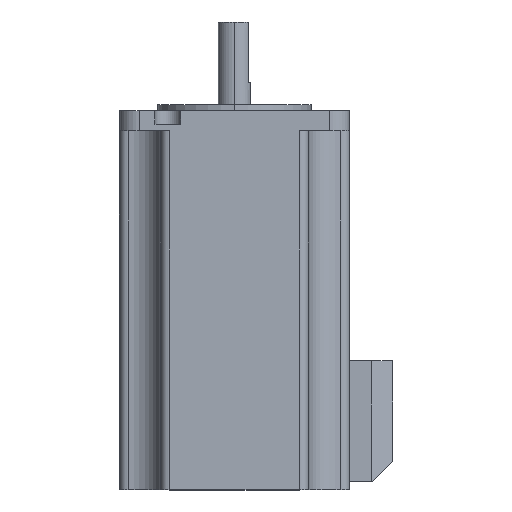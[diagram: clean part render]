
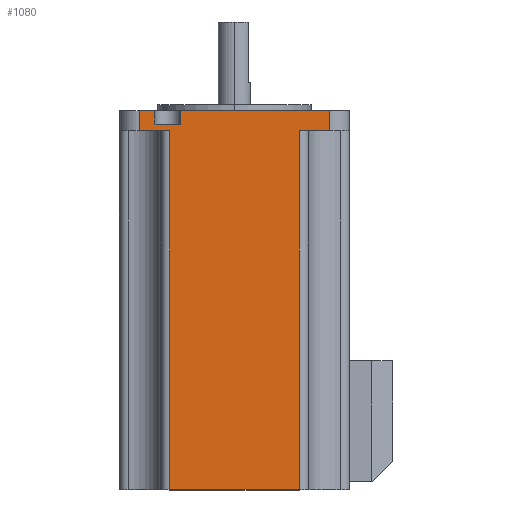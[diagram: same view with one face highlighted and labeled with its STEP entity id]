
A CAD part, top view. The second image highlights one B-rep face of the part: STEP entity #1080.
In plain terms, the highlighted planar face has unit normal (0, 0, 1).
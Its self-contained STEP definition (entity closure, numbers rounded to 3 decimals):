
#9 = DIRECTION ( 'NONE',  ( 0., 1., 0. ) ) ;
#20 = DIRECTION ( 'NONE',  ( 1., 0., 0. ) ) ;
#50 = EDGE_CURVE ( 'NONE', #1748, #1916, #1142, .T. ) ;
#63 = CARTESIAN_POINT ( 'NONE',  ( 0., 0., 0. ) ) ;
#117 = DIRECTION ( 'NONE',  ( 0., 0., 1. ) ) ;
#147 = CARTESIAN_POINT ( 'NONE',  ( 12.4, -5., 0. ) ) ;
#171 = FACE_OUTER_BOUND ( 'NONE', #1855, .T. ) ;
#177 = VERTEX_POINT ( 'NONE', #2655 ) ;
#201 = EDGE_CURVE ( 'NONE', #1410, #2619, #806, .T. ) ;
#209 = EDGE_CURVE ( 'NONE', #1818, #2076, #2396, .T. ) ;
#253 = EDGE_CURVE ( 'NONE', #1818, #1170, #1775, .T. ) ;
#257 = VECTOR ( 'NONE', #1012, 1000. ) ;
#265 = LINE ( 'NONE', #1286, #1783 ) ;
#270 = ORIENTED_EDGE ( 'NONE', *, *, #1966, .T. ) ;
#273 = EDGE_CURVE ( 'NONE', #386, #1416, #2683, .T. ) ;
#364 = EDGE_CURVE ( 'NONE', #2038, #386, #1942, .T. ) ;
#386 = VERTEX_POINT ( 'NONE', #1666 ) ;
#498 = ORIENTED_EDGE ( 'NONE', *, *, #1078, .F. ) ;
#502 = CARTESIAN_POINT ( 'NONE',  ( 52.07, -5., 0. ) ) ;
#522 = DIRECTION ( 'NONE',  ( 1., 0., 0. ) ) ;
#675 = DIRECTION ( 'NONE',  ( 0., 1., 0. ) ) ;
#705 = CARTESIAN_POINT ( 'NONE',  ( 12.4, -5., 0. ) ) ;
#754 = DIRECTION ( 'NONE',  ( 1., 0., 0. ) ) ;
#755 = VECTOR ( 'NONE', #1852, 1000. ) ;
#763 = CARTESIAN_POINT ( 'NONE',  ( 52.07, 0., 0. ) ) ;
#765 = VECTOR ( 'NONE', #1968, 1000. ) ;
#795 = DIRECTION ( 'NONE',  ( 0., 1., 0. ) ) ;
#806 = LINE ( 'NONE', #1000, #257 ) ;
#809 = ORIENTED_EDGE ( 'NONE', *, *, #1526, .F. ) ;
#824 = CARTESIAN_POINT ( 'NONE',  ( 4.93, -5., 0. ) ) ;
#838 = VECTOR ( 'NONE', #2072, 1000. ) ;
#895 = ORIENTED_EDGE ( 'NONE', *, *, #201, .F. ) ;
#907 = ORIENTED_EDGE ( 'NONE', *, *, #253, .T. ) ;
#915 = VECTOR ( 'NONE', #1599, 1000. ) ;
#935 = VECTOR ( 'NONE', #1028, 1000. ) ;
#1000 = CARTESIAN_POINT ( 'NONE',  ( 8.8, -3.4, 0. ) ) ;
#1012 = DIRECTION ( 'NONE',  ( 1., 0., 0. ) ) ;
#1028 = DIRECTION ( 'NONE',  ( 0., -1., 0. ) ) ;
#1043 = VECTOR ( 'NONE', #522, 1000. ) ;
#1053 = LINE ( 'NONE', #1646, #1656 ) ;
#1078 = EDGE_CURVE ( 'NONE', #1916, #177, #1758, .T. ) ;
#1080 = ADVANCED_FACE ( 'NONE', ( #171 ), #1091, .T. ) ;
#1091 = PLANE ( 'NONE',  #1146 ) ;
#1116 = ORIENTED_EDGE ( 'NONE', *, *, #209, .F. ) ;
#1142 = LINE ( 'NONE', #2036, #2227 ) ;
#1146 = AXIS2_PLACEMENT_3D ( 'NONE', #1502, #117, #2308 ) ;
#1170 = VERTEX_POINT ( 'NONE', #763 ) ;
#1208 = VECTOR ( 'NONE', #754, 1000. ) ;
#1225 = VECTOR ( 'NONE', #9, 1000. ) ;
#1286 = CARTESIAN_POINT ( 'NONE',  ( 15.2, -3.4, 0. ) ) ;
#1294 = CARTESIAN_POINT ( 'NONE',  ( 15.2, 0., 0. ) ) ;
#1361 = ORIENTED_EDGE ( 'NONE', *, *, #1515, .F. ) ;
#1388 = EDGE_CURVE ( 'NONE', #2038, #1748, #1442, .T. ) ;
#1403 = ORIENTED_EDGE ( 'NONE', *, *, #1388, .F. ) ;
#1410 = VERTEX_POINT ( 'NONE', #2354 ) ;
#1416 = VERTEX_POINT ( 'NONE', #1768 ) ;
#1442 = LINE ( 'NONE', #705, #765 ) ;
#1502 = CARTESIAN_POINT ( 'NONE',  ( 0., -94., 0. ) ) ;
#1515 = EDGE_CURVE ( 'NONE', #2270, #1170, #1053, .T. ) ;
#1526 = EDGE_CURVE ( 'NONE', #2076, #1416, #2069, .T. ) ;
#1566 = CARTESIAN_POINT ( 'NONE',  ( 8.8, -3.4, 0. ) ) ;
#1599 = DIRECTION ( 'NONE',  ( 0., 1., 0. ) ) ;
#1646 = CARTESIAN_POINT ( 'NONE',  ( 0., 0., 0. ) ) ;
#1648 = ORIENTED_EDGE ( 'NONE', *, *, #50, .F. ) ;
#1656 = VECTOR ( 'NONE', #20, 1000. ) ;
#1666 = CARTESIAN_POINT ( 'NONE',  ( 12.4, -94., 0. ) ) ;
#1679 = CARTESIAN_POINT ( 'NONE',  ( 15.2, -3.4, 0. ) ) ;
#1748 = VERTEX_POINT ( 'NONE', #824 ) ;
#1758 = LINE ( 'NONE', #63, #1208 ) ;
#1768 = CARTESIAN_POINT ( 'NONE',  ( 44.6, -94., 0. ) ) ;
#1775 = LINE ( 'NONE', #2673, #1225 ) ;
#1783 = VECTOR ( 'NONE', #675, 1000. ) ;
#1818 = VERTEX_POINT ( 'NONE', #502 ) ;
#1852 = DIRECTION ( 'NONE',  ( -1., 0., 0. ) ) ;
#1855 = EDGE_LOOP ( 'NONE', ( #2565, #809, #1116, #907, #1361, #2219, #895, #270, #498, #1648, #1403, #2271 ) ) ;
#1916 = VERTEX_POINT ( 'NONE', #2505 ) ;
#1942 = LINE ( 'NONE', #2161, #838 ) ;
#1966 = EDGE_CURVE ( 'NONE', #1410, #177, #2556, .T. ) ;
#1968 = DIRECTION ( 'NONE',  ( -1., 0., 0. ) ) ;
#2036 = CARTESIAN_POINT ( 'NONE',  ( 4.93, -6., 0. ) ) ;
#2038 = VERTEX_POINT ( 'NONE', #147 ) ;
#2069 = LINE ( 'NONE', #2672, #935 ) ;
#2072 = DIRECTION ( 'NONE',  ( 0., -1., 0. ) ) ;
#2076 = VERTEX_POINT ( 'NONE', #2164 ) ;
#2161 = CARTESIAN_POINT ( 'NONE',  ( 12.4, -5., 0. ) ) ;
#2164 = CARTESIAN_POINT ( 'NONE',  ( 44.6, -5., 0. ) ) ;
#2219 = ORIENTED_EDGE ( 'NONE', *, *, #2625, .F. ) ;
#2221 = CARTESIAN_POINT ( 'NONE',  ( 0., -94., 0. ) ) ;
#2227 = VECTOR ( 'NONE', #795, 1000. ) ;
#2270 = VERTEX_POINT ( 'NONE', #1294 ) ;
#2271 = ORIENTED_EDGE ( 'NONE', *, *, #364, .T. ) ;
#2308 = DIRECTION ( 'NONE',  ( 1., 0., 0. ) ) ;
#2354 = CARTESIAN_POINT ( 'NONE',  ( 8.8, -3.4, 0. ) ) ;
#2396 = LINE ( 'NONE', #2644, #755 ) ;
#2505 = CARTESIAN_POINT ( 'NONE',  ( 4.93, 0., 0. ) ) ;
#2556 = LINE ( 'NONE', #1566, #915 ) ;
#2565 = ORIENTED_EDGE ( 'NONE', *, *, #273, .T. ) ;
#2619 = VERTEX_POINT ( 'NONE', #1679 ) ;
#2625 = EDGE_CURVE ( 'NONE', #2619, #2270, #265, .T. ) ;
#2644 = CARTESIAN_POINT ( 'NONE',  ( 44.6, -5., 0. ) ) ;
#2655 = CARTESIAN_POINT ( 'NONE',  ( 8.8, 0., 0. ) ) ;
#2672 = CARTESIAN_POINT ( 'NONE',  ( 44.6, -5., 0. ) ) ;
#2673 = CARTESIAN_POINT ( 'NONE',  ( 52.07, -6., 0. ) ) ;
#2683 = LINE ( 'NONE', #2221, #1043 ) ;
